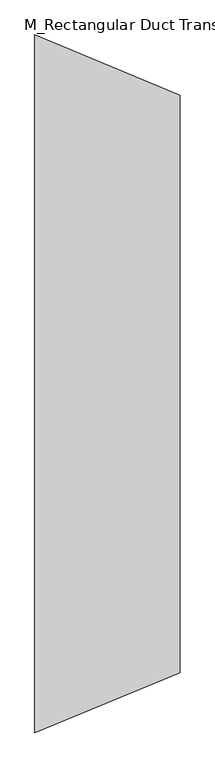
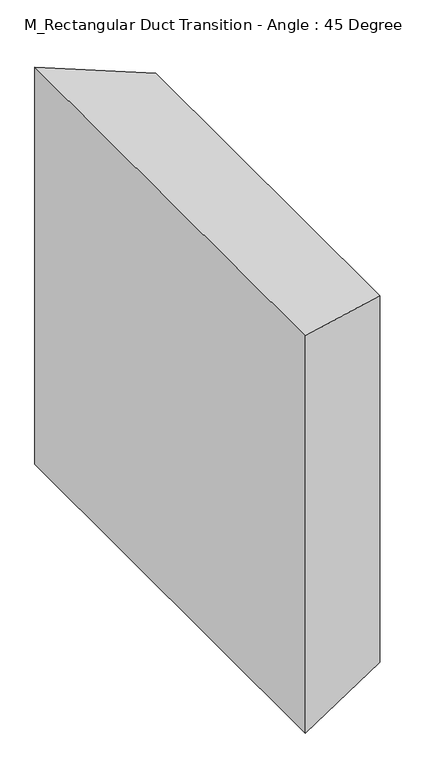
"""IFC4 building model written with IfcOpenShell, lengths in millimetres: duct fitting geometry, M_Rectangular Duct Transition - Angle : 45 Degree."""

from ifc_helpers import new_model, si_unit, origin, place, context, project, spatial, faceted_brep, source, transform, mapped, element, save


def m_rectangular_duct_transition_angle_45_degree_08de0fec(model_context):
    return source(origin(), model_context, "Body", "Brep", [
        faceted_brep([(603.5533906, -1200.0, 1200.4), (603.5533906, -1200.0, -1199.6), (603.5533906, 1200.0, -1199.6), (603.5533906, 1200.0, 1200.4), (0.0, -1450.0, 1300.0), (0.0, 1450.0, 1300.0), (0.0, 1450.0, -1300.0), (0.0, -1450.0, -1300.0)], [[[0, 1, 2, 3]], [[4, 5, 6, 7]], [[4, 7, 1, 0]], [[7, 6, 2, 1]], [[6, 5, 3, 2]], [[5, 4, 0, 3]]]),
        faceted_brep([(603.5533906, -1200.0, 1200.4), (603.5533906, -1200.0, -1199.6), (603.5533906, 1200.0, -1199.6), (603.5533906, 1200.0, 1200.4), (0.0, -1450.0, 1300.0), (0.0, 1450.0, 1300.0), (0.0, 1450.0, -1300.0), (0.0, -1450.0, -1300.0)], [[[0, 1, 2, 3]], [[4, 5, 6, 7]], [[4, 7, 1, 0]], [[7, 6, 2, 1]], [[6, 5, 3, 2]], [[5, 4, 0, 3]]]),
        faceted_brep([(603.5533906, -1200.0, 1200.4), (603.5533906, -1200.0, -1199.6), (603.5533906, 1200.0, -1199.6), (603.5533906, 1200.0, 1200.4), (0.0, -1450.0, 1300.0), (0.0, 1450.0, 1300.0), (0.0, 1450.0, -1300.0), (0.0, -1450.0, -1300.0)], [[[0, 1, 2, 3]], [[4, 5, 6, 7]], [[4, 7, 1, 0]], [[7, 6, 2, 1]], [[6, 5, 3, 2]], [[5, 4, 0, 3]]]),
    ])


if __name__ == "__main__":
    model = new_model("IFC4")
    model_context = context("Model", 3, world=origin())
    ifc_project = project(units=[si_unit("LENGTHUNIT", "METRE", prefix="MILLI")], contexts=[model_context])
    site = spatial("IfcSite", under=ifc_project)
    building = spatial("IfcBuilding", under=site)
    placement = place(None, origin())
    m_rectangular_duct_transition_angle_45_degree_shape = m_rectangular_duct_transition_angle_45_degree_08de0fec(model_context)
    element("IfcDuctFitting", 1, ObjectType="M_Rectangular Duct Transition - Angle : 45 Degree", at=placement, inside=building, context=model_context, shape_type="MappedRepresentation", body=[
        mapped(m_rectangular_duct_transition_angle_45_degree_shape, transform((0.0, 0.0, 0.0), x_axis=(1.0, 0.0, 0.0), y_axis=(0.0, 1.0, 0.0), z_axis=(0.0, 0.0, 1.0))),
    ])
    save(model, "model.ifc")
